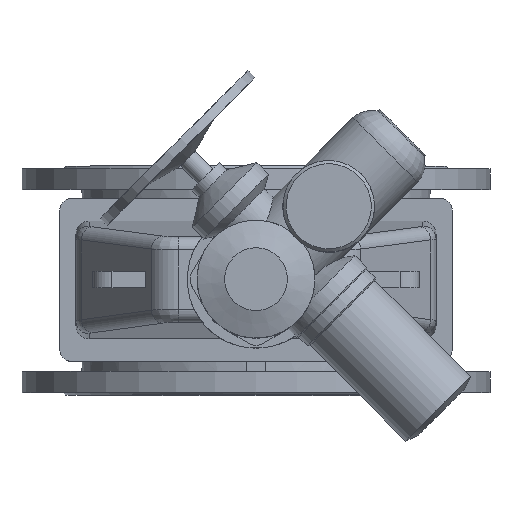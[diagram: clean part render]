
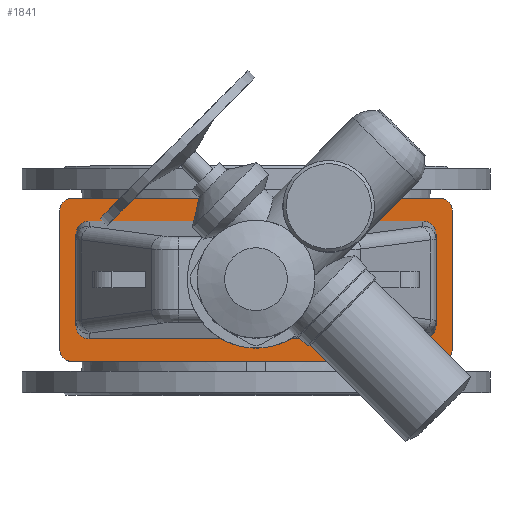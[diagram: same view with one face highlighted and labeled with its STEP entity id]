
A CAD part, top view. The second image highlights one B-rep face of the part: STEP entity #1841.
In plain terms, the highlighted planar face has unit normal (0, 0, 1).
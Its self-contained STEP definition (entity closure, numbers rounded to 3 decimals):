
#1841=ADVANCED_FACE('',(#6592,#6594),#6596,.T.);
#6592=FACE_BOUND('',#6593,.T.);
#6593=EDGE_LOOP('',(#9410,#9411,#9412,#9413,#9414,#9415,#9416,#9417));
#6594=FACE_BOUND('',#6595,.T.);
#6595=EDGE_LOOP('',(#9418,#9419,#9420,#9421,#9422,#9423,#9424,#9425));
#6596=PLANE('',#6597);
#6597=AXIS2_PLACEMENT_3D('',#6598,#6599,#6600);
#6598=CARTESIAN_POINT('',(0.,0.,666.));
#6599=DIRECTION('',(0.,-0.,1.));
#6600=DIRECTION('',(0.,1.,0.));
#9410=ORIENTED_EDGE('',*,*,#10566,.F.);
#9411=ORIENTED_EDGE('',*,*,#10579,.T.);
#9412=ORIENTED_EDGE('',*,*,#10578,.F.);
#9413=ORIENTED_EDGE('',*,*,#10576,.T.);
#9414=ORIENTED_EDGE('',*,*,#10574,.F.);
#9415=ORIENTED_EDGE('',*,*,#10572,.T.);
#9416=ORIENTED_EDGE('',*,*,#10570,.F.);
#9417=ORIENTED_EDGE('',*,*,#10567,.T.);
#9418=ORIENTED_EDGE('',*,*,#10580,.F.);
#9419=ORIENTED_EDGE('',*,*,#10581,.F.);
#9420=ORIENTED_EDGE('',*,*,#10582,.F.);
#9421=ORIENTED_EDGE('',*,*,#10583,.F.);
#9422=ORIENTED_EDGE('',*,*,#10584,.F.);
#9423=ORIENTED_EDGE('',*,*,#10585,.F.);
#9424=ORIENTED_EDGE('',*,*,#10586,.F.);
#9425=ORIENTED_EDGE('',*,*,#10587,.F.);
#10566=EDGE_CURVE('',#11693,#11691,#11695,.F.);
#10567=EDGE_CURVE('',#11696,#11691,#11697,.T.);
#10570=EDGE_CURVE('',#11696,#11699,#11701,.F.);
#10572=EDGE_CURVE('',#11702,#11699,#11704,.T.);
#10574=EDGE_CURVE('',#11702,#11705,#11707,.F.);
#10576=EDGE_CURVE('',#11708,#11705,#11710,.T.);
#10578=EDGE_CURVE('',#11708,#11711,#11713,.F.);
#10579=EDGE_CURVE('',#11693,#11711,#11714,.T.);
#10580=EDGE_CURVE('',#11715,#11716,#11717,.F.);
#10581=EDGE_CURVE('',#11718,#11715,#11719,.T.);
#10582=EDGE_CURVE('',#11720,#11718,#11721,.T.);
#10583=EDGE_CURVE('',#11722,#11720,#11723,.T.);
#10584=EDGE_CURVE('',#11724,#11722,#11725,.F.);
#10585=EDGE_CURVE('',#11726,#11724,#11727,.T.);
#10586=EDGE_CURVE('',#11728,#11726,#11729,.T.);
#10587=EDGE_CURVE('',#11716,#11728,#11730,.T.);
#11691=VERTEX_POINT('',#14617);
#11693=VERTEX_POINT('',#14621);
#11695=CIRCLE('',#14625,20.);
#11696=VERTEX_POINT('',#14629);
#11697=LINE('',#14630,#14631);
#11699=VERTEX_POINT('',#14636);
#11701=CIRCLE('',#14640,20.);
#11702=VERTEX_POINT('',#14644);
#11704=LINE('',#14648,#14649);
#11705=VERTEX_POINT('',#14651);
#11707=CIRCLE('',#14655,20.);
#11708=VERTEX_POINT('',#14659);
#11710=LINE('',#14663,#14664);
#11711=VERTEX_POINT('',#14666);
#11713=CIRCLE('',#14670,20.);
#11714=LINE('',#14674,#14675);
#11715=VERTEX_POINT('',#14677);
#11716=VERTEX_POINT('',#14678);
#11717=(BOUNDED_CURVE()B_SPLINE_CURVE(3,
(#14679,#14680,#14681,#14682),
.UNSPECIFIED.,.F.,.F.)B_SPLINE_CURVE_WITH_KNOTS((4,4),
(0.,1.),
.UNSPECIFIED.)CURVE()GEOMETRIC_REPRESENTATION_ITEM()RATIONAL_B_SPLINE_CURVE((1.,
0.805,0.805,1.))REPRESENTATION_ITEM(''));
#11718=VERTEX_POINT('',#14683);
#11719=LINE('',#14684,#14685);
#11720=VERTEX_POINT('',#14687);
#11721=(BOUNDED_CURVE()B_SPLINE_CURVE(3,
(#14688,#14689,#14690,#14691),
.UNSPECIFIED.,.F.,.F.)B_SPLINE_CURVE_WITH_KNOTS((4,4),
(0.,1.),
.UNSPECIFIED.)CURVE()GEOMETRIC_REPRESENTATION_ITEM()RATIONAL_B_SPLINE_CURVE((1.,
0.805,0.805,1.))REPRESENTATION_ITEM(''));
#11722=VERTEX_POINT('',#14692);
#11723=LINE('',#14693,#14694);
#11724=VERTEX_POINT('',#14696);
#11725=(BOUNDED_CURVE()B_SPLINE_CURVE(3,
(#14697,#14698,#14699,#14700),
.UNSPECIFIED.,.F.,.F.)B_SPLINE_CURVE_WITH_KNOTS((4,4),
(0.,1.),
.UNSPECIFIED.)CURVE()GEOMETRIC_REPRESENTATION_ITEM()RATIONAL_B_SPLINE_CURVE((1.,
0.805,0.805,1.))REPRESENTATION_ITEM(''));
#11726=VERTEX_POINT('',#14701);
#11727=LINE('',#14702,#14703);
#11728=VERTEX_POINT('',#14705);
#11729=(BOUNDED_CURVE()B_SPLINE_CURVE(3,
(#14706,#14707,#14708,#14709),
.UNSPECIFIED.,.F.,.F.)B_SPLINE_CURVE_WITH_KNOTS((4,4),
(0.,1.),
.UNSPECIFIED.)CURVE()GEOMETRIC_REPRESENTATION_ITEM()RATIONAL_B_SPLINE_CURVE((1.,
0.805,0.805,1.))REPRESENTATION_ITEM(''));
#11730=LINE('',#14710,#14711);
#14617=CARTESIAN_POINT('',(-300.,-105.,666.));
#14621=CARTESIAN_POINT('',(-280.,-125.,666.));
#14625=AXIS2_PLACEMENT_3D('',#14626,#14627,#14628);
#14626=CARTESIAN_POINT('',(-280.,-105.,666.));
#14627=DIRECTION('',(0.,-0.,1.));
#14628=DIRECTION('',(-1.,0.,0.));
#14629=CARTESIAN_POINT('',(-300.,105.,666.));
#14630=CARTESIAN_POINT('',(-300.,105.,666.));
#14631=VECTOR('',#14632,1.);
#14632=DIRECTION('',(0.,-1.,0.));
#14636=CARTESIAN_POINT('',(-280.,125.,666.));
#14640=AXIS2_PLACEMENT_3D('',#14641,#14642,#14643);
#14641=CARTESIAN_POINT('',(-280.,105.,666.));
#14642=DIRECTION('',(0.,-0.,1.));
#14643=DIRECTION('',(0.,1.,0.));
#14644=CARTESIAN_POINT('',(280.,125.,666.));
#14648=CARTESIAN_POINT('',(280.,125.,666.));
#14649=VECTOR('',#14650,1.);
#14650=DIRECTION('',(-1.,0.,0.));
#14651=CARTESIAN_POINT('',(300.,105.,666.));
#14655=AXIS2_PLACEMENT_3D('',#14656,#14657,#14658);
#14656=CARTESIAN_POINT('',(280.,105.,666.));
#14657=DIRECTION('',(0.,-0.,1.));
#14658=DIRECTION('',(1.,0.,0.));
#14659=CARTESIAN_POINT('',(300.,-105.,666.));
#14663=CARTESIAN_POINT('',(300.,-105.,666.));
#14664=VECTOR('',#14665,1.);
#14665=DIRECTION('',(0.,1.,0.));
#14666=CARTESIAN_POINT('',(280.,-125.,666.));
#14670=AXIS2_PLACEMENT_3D('',#14671,#14672,#14673);
#14671=CARTESIAN_POINT('',(280.,-105.,666.));
#14672=DIRECTION('',(0.,-0.,1.));
#14673=DIRECTION('',(0.,-1.,0.));
#14674=CARTESIAN_POINT('',(-280.,-125.,666.));
#14675=VECTOR('',#14676,1.);
#14676=DIRECTION('',(1.,0.,0.));
#14677=CARTESIAN_POINT('',(255.,-90.,666.));
#14678=CARTESIAN_POINT('',(275.,-69.924,666.));
#14679=CARTESIAN_POINT('',(275.,-69.924,666.));
#14680=CARTESIAN_POINT('',(275.,-81.684,666.));
#14681=CARTESIAN_POINT('',(266.716,-90.,666.));
#14682=CARTESIAN_POINT('',(255.,-90.,666.));
#14683=CARTESIAN_POINT('',(-255.,-90.,666.));
#14684=CARTESIAN_POINT('',(-255.,-90.,666.));
#14685=VECTOR('',#14686,1.);
#14686=DIRECTION('',(1.,0.,0.));
#14687=CARTESIAN_POINT('',(-275.,-69.924,666.));
#14688=CARTESIAN_POINT('',(-275.,-69.924,666.));
#14689=CARTESIAN_POINT('',(-275.,-81.684,666.));
#14690=CARTESIAN_POINT('',(-266.716,-90.,666.));
#14691=CARTESIAN_POINT('',(-255.,-90.,666.));
#14692=CARTESIAN_POINT('',(-275.,69.924,666.));
#14693=CARTESIAN_POINT('',(-275.,69.924,666.));
#14694=VECTOR('',#14695,1.);
#14695=DIRECTION('',(0.,-1.,0.));
#14696=CARTESIAN_POINT('',(-255.,90.,666.));
#14697=CARTESIAN_POINT('',(-275.,69.924,666.));
#14698=CARTESIAN_POINT('',(-275.,81.684,666.));
#14699=CARTESIAN_POINT('',(-266.716,90.,666.));
#14700=CARTESIAN_POINT('',(-255.,90.,666.));
#14701=CARTESIAN_POINT('',(255.,90.,666.));
#14702=CARTESIAN_POINT('',(255.,90.,666.));
#14703=VECTOR('',#14704,1.);
#14704=DIRECTION('',(-1.,0.,0.));
#14705=CARTESIAN_POINT('',(275.,69.924,666.));
#14706=CARTESIAN_POINT('',(275.,69.924,666.));
#14707=CARTESIAN_POINT('',(275.,81.684,666.));
#14708=CARTESIAN_POINT('',(266.716,90.,666.));
#14709=CARTESIAN_POINT('',(255.,90.,666.));
#14710=CARTESIAN_POINT('',(275.,-69.924,666.));
#14711=VECTOR('',#14712,1.);
#14712=DIRECTION('',(0.,1.,0.));
